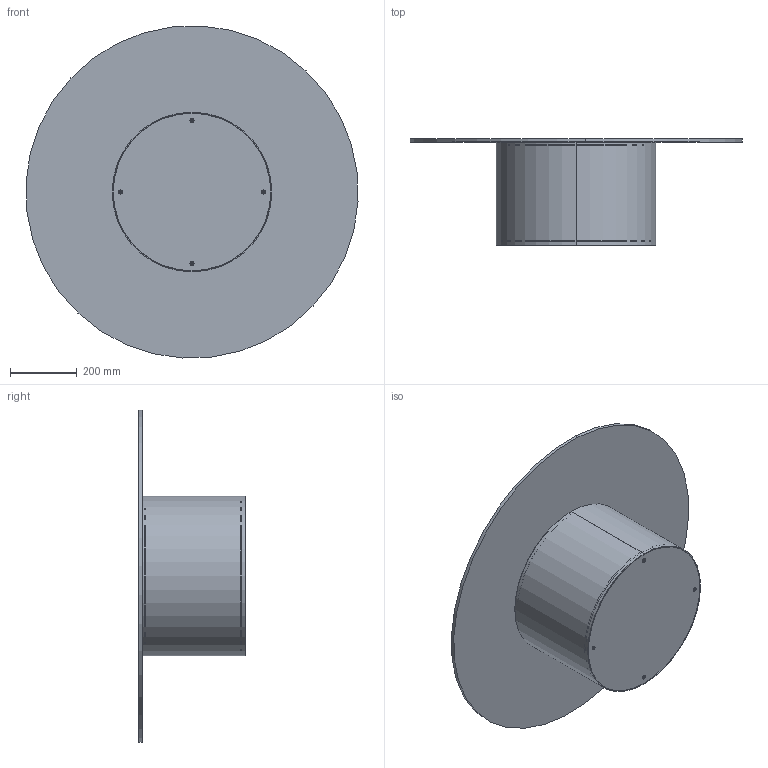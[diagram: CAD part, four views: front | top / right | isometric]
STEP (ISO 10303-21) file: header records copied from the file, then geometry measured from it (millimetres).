
FILE_DESCRIPTION (( 'STEP AP203' ), '1' );
FILE_NAME ('CL03G.STEP', '2024-08-06T10:14:45', ( '' ), ( '' ), 'SwSTEP 2.0', 'SolidWorks 2022', '' );
FILE_SCHEMA (( 'CONFIG_CONTROL_DESIGN' ));
Length unit declared in the file: millimetre
Products named in the file (10): CLB1000000_03-00-Zavorra cilindro low D.48cm; C1XCRMXX-00-piani Rotondi Cristallo_C03 D.100cm; CXXCRXX-00-Piani Rotondi in Cristallo CON PIASTRA_C03P PIANO CRISTALLO D.100cm; P0000003-00-STAFFA DI FISSAGGIO DIAMETRO 250_P0000003-250mm normale; CLB1000000-00-CILINDRO LOW D.48cm BASE GREZZA; CL03G; CLB1000000_01-00-Supporto piano fusto D.48cm; M6xXXmm_HEX_M6x20mm HEX; CLB1000000_02-00-Fusto centrale d.48cm; CLB1000000_04-00-Supporto Zavorra fusto D.48cm
Assembly tree (12 placements, depth 3):
  CL03G
    CLB1000000-00-CILINDRO LOW D.48cm BASE GREZZA
      CLB1000000_02-00-Fusto centrale d.48cm
      CLB1000000_03-00-Zavorra cilindro low D.48cm
      CLB1000000_01-00-Supporto piano fusto D.48cm
      CLB1000000_04-00-Supporto Zavorra fusto D.48cm
      M6xXXmm_HEX_M6x20mm HEX  x4
    CXXCRXX-00-Piani Rotondi in Cristallo CON PIASTRA_C03P PIANO CRISTALLO D.100cm
      C1XCRMXX-00-piani Rotondi Cristallo_C03 D.100cm
      P0000003-00-STAFFA DI FISSAGGIO DIAMETRO 250_P0000003-250mm normale
Bounding box: 998.34 x 320 x 998.34 mm (x, y, z)
Volume: 11366742.9 mm3; surface area: 3292271.5 mm2
Topology: 12 solids, 12 shells, 231 faces, 499 edges, 288 vertices
Faces by surface type: plane 110, cylinder 73, cone 38, torus 8, bspline 2
Entity records: 5193 total; most frequent: CARTESIAN_POINT 1002, DIRECTION 697, ORIENTED_EDGE 586, EDGE_CURVE 293, AXIS2_PLACEMENT_3D 284, VERTEX_POINT 183, EDGE_LOOP 164, CIRCLE 140
